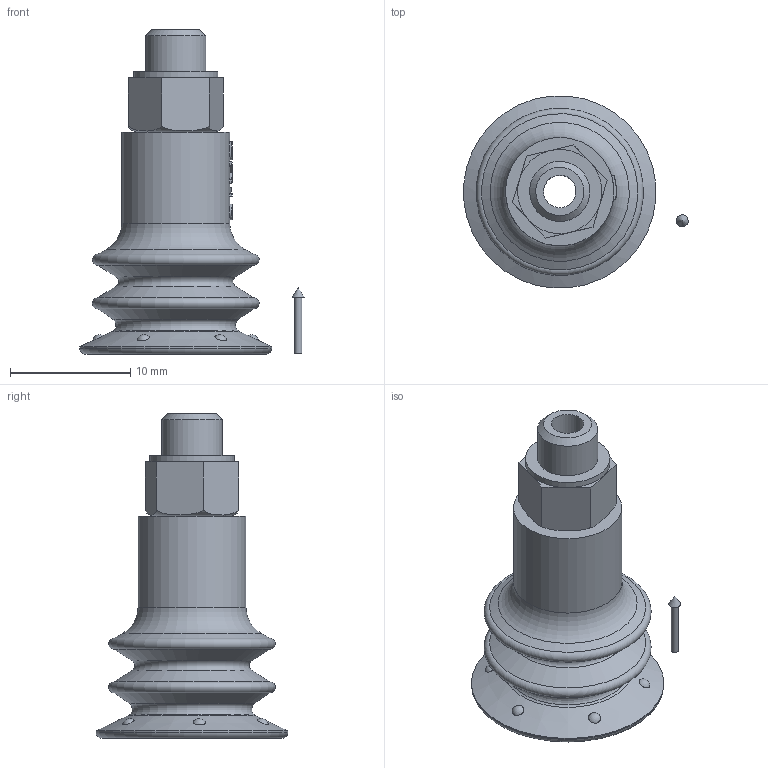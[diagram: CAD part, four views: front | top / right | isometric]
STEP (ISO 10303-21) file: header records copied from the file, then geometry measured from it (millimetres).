
FILE_DESCRIPTION(('STEP AP214'),'1');
FILE_NAME('KIT.08.36.D15.stp','2019-04-29T08:51:44',(' '),(' '),'Spatial InterOp 3D',' ',' ');
FILE_SCHEMA(('AUTOMOTIVE_DESIGN { 1 0 10303 214 1 1 1 1 }'));
Length unit declared in the file: millimetre
Products named in the file (6): KIT.08.36.D15; CA.08.09.030; CA.08.36.D15; freccia3; 0118505-2; 0118505-1
Assembly tree (5 placements, depth 3):
  KIT.08.36.D15
    CA.08.09.030
    CA.08.36.D15
      freccia3
      0118505-2
      0118505-1
Bounding box: 18.65 x 15.95 x 26.95 mm (x, y, z)
Volume: 1231.8 mm3; surface area: 2198.3 mm2
Topology: 4 solids, 4 shells, 109 faces, 249 edges, 159 vertices
Faces by surface type: plane 47, cylinder 16, torus 14, cone 14, extrusion 12, sphere 6
Full cylindrical faces by diameter (mm): 0.6 x1, 2.7 x1, 3.8 x2, 4 x1, 5 x1, 7 x1, 9 x1, 16 x1
Entity records: 4787 total; most frequent: CARTESIAN_POINT 1618, DIRECTION 453, ORIENTED_EDGE 376, EDGE_CURVE 188, AXIS2_PLACEMENT_3D 186, EDGE_LOOP 167, VERTEX_POINT 142, FACE_OUTER_BOUND 131
